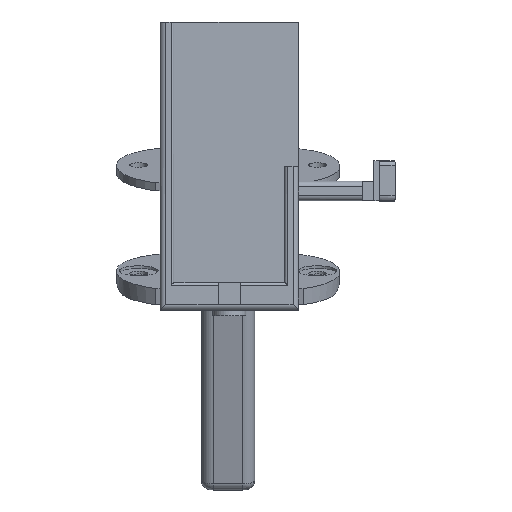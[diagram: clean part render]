
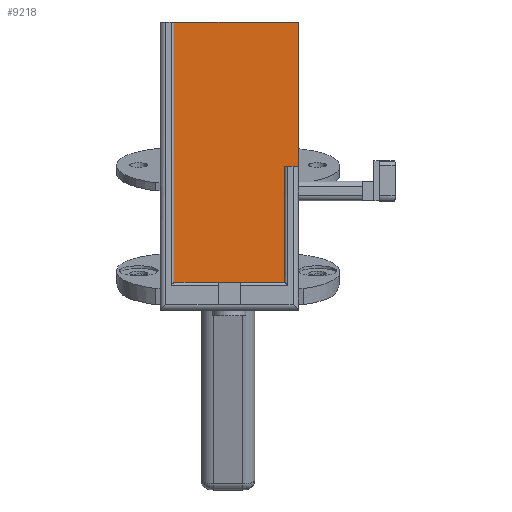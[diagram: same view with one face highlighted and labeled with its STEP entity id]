
A CAD part, top view. The second image highlights one B-rep face of the part: STEP entity #9218.
In plain terms, the highlighted planar face has unit normal (0, 0, 1) as drawn and (0, -0.259, 0.966) by its records, which use the part's own axes.
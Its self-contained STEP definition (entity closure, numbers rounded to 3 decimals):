
#558 = ORIENTED_EDGE ( 'NONE', *, *, #1441, .F. ) ;
#618 = LINE ( 'NONE', #671, #10608 ) ;
#636 = LINE ( 'NONE', #6580, #3024 ) ;
#671 = CARTESIAN_POINT ( 'NONE',  ( -97.487, -26.893, 23.722 ) ) ;
#827 = CARTESIAN_POINT ( 'NONE',  ( -97.487, -65.53, 13.369 ) ) ;
#1441 = EDGE_CURVE ( 'NONE', #5092, #3672, #618, .T. ) ;
#1487 = DIRECTION ( 'NONE',  ( 0., 0.259, -0.966 ) ) ;
#1501 = EDGE_CURVE ( 'NONE', #6347, #3672, #6014, .T. ) ;
#1887 = EDGE_CURVE ( 'NONE', #4262, #9202, #2821, .T. ) ;
#1940 = EDGE_CURVE ( 'NONE', #6347, #9202, #636, .T. ) ;
#2182 = CARTESIAN_POINT ( 'NONE',  ( -95.487, -15.302, 26.827 ) ) ;
#2520 = DIRECTION ( 'NONE',  ( -1., 0., 0. ) ) ;
#2821 = LINE ( 'NONE', #7924, #9922 ) ;
#3024 = VECTOR ( 'NONE', #7530, 1000. ) ;
#3617 = ORIENTED_EDGE ( 'NONE', *, *, #3775, .F. ) ;
#3672 = VERTEX_POINT ( 'NONE', #9361 ) ;
#3771 = VERTEX_POINT ( 'NONE', #8024 ) ;
#3775 = EDGE_CURVE ( 'NONE', #4262, #3771, #6256, .T. ) ;
#3990 = AXIS2_PLACEMENT_3D ( 'NONE', #6529, #1487, #8257 ) ;
#4262 = VERTEX_POINT ( 'NONE', #10501 ) ;
#4283 = VECTOR ( 'NONE', #8799, 1000. ) ;
#4427 = LINE ( 'NONE', #827, #8553 ) ;
#4635 = EDGE_CURVE ( 'NONE', #3771, #5092, #4427, .T. ) ;
#4944 = DIRECTION ( 'NONE',  ( 0., 0.966, 0.259 ) ) ;
#5092 = VERTEX_POINT ( 'NONE', #5680 ) ;
#5465 = DIRECTION ( 'NONE',  ( -1., 0., 0. ) ) ;
#5680 = CARTESIAN_POINT ( 'NONE',  ( -97.487, -65.53, 13.369 ) ) ;
#6014 = LINE ( 'NONE', #10117, #7421 ) ;
#6067 = ORIENTED_EDGE ( 'NONE', *, *, #4635, .F. ) ;
#6208 = CARTESIAN_POINT ( 'NONE',  ( -95.487, 25.267, 37.698 ) ) ;
#6256 = LINE ( 'NONE', #9625, #4283 ) ;
#6347 = VERTEX_POINT ( 'NONE', #2182 ) ;
#6529 = CARTESIAN_POINT ( 'NONE',  ( -47.487, -26.893, 23.722 ) ) ;
#6580 = CARTESIAN_POINT ( 'NONE',  ( -95.487, -26.893, 23.722 ) ) ;
#6994 = EDGE_LOOP ( 'NONE', ( #7900, #7710, #558, #6067, #3617, #9771 ) ) ;
#7421 = VECTOR ( 'NONE', #2520, 1000. ) ;
#7530 = DIRECTION ( 'NONE',  ( 0., 0.966, 0.259 ) ) ;
#7710 = ORIENTED_EDGE ( 'NONE', *, *, #1501, .T. ) ;
#7900 = ORIENTED_EDGE ( 'NONE', *, *, #1940, .F. ) ;
#7924 = CARTESIAN_POINT ( 'NONE',  ( -47.487, 25.267, 37.698 ) ) ;
#8024 = CARTESIAN_POINT ( 'NONE',  ( -49.487, -65.53, 13.369 ) ) ;
#8257 = DIRECTION ( 'NONE',  ( 1., 0., 0. ) ) ;
#8553 = VECTOR ( 'NONE', #9644, 1000. ) ;
#8799 = DIRECTION ( 'NONE',  ( 0., -0.966, -0.259 ) ) ;
#9187 = PLANE ( 'NONE',  #3990 ) ;
#9202 = VERTEX_POINT ( 'NONE', #6208 ) ;
#9218 = ADVANCED_FACE ( 'NONE', ( #9914 ), #9187, .F. ) ;
#9361 = CARTESIAN_POINT ( 'NONE',  ( -97.487, -15.302, 26.827 ) ) ;
#9625 = CARTESIAN_POINT ( 'NONE',  ( -49.487, -26.893, 23.722 ) ) ;
#9644 = DIRECTION ( 'NONE',  ( -1., 0., 0. ) ) ;
#9771 = ORIENTED_EDGE ( 'NONE', *, *, #1887, .T. ) ;
#9914 = FACE_OUTER_BOUND ( 'NONE', #6994, .T. ) ;
#9922 = VECTOR ( 'NONE', #5465, 1000. ) ;
#10117 = CARTESIAN_POINT ( 'NONE',  ( -47.487, -15.302, 26.827 ) ) ;
#10501 = CARTESIAN_POINT ( 'NONE',  ( -49.487, 25.267, 37.698 ) ) ;
#10608 = VECTOR ( 'NONE', #4944, 1000. ) ;
